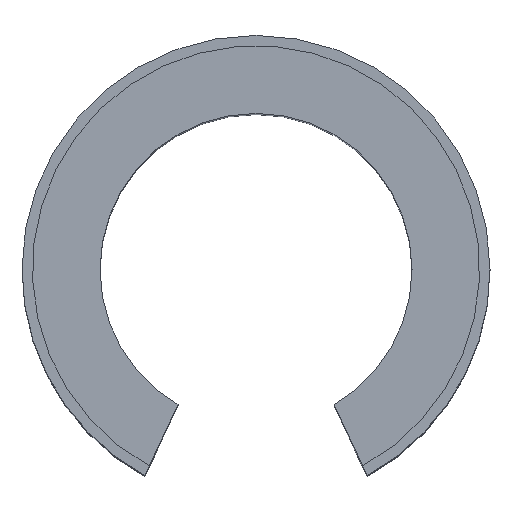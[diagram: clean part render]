
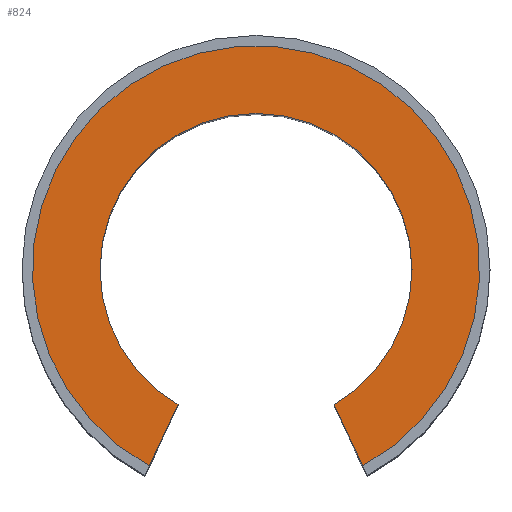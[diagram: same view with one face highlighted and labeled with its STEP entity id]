
A CAD part, top view. The second image highlights one B-rep face of the part: STEP entity #824.
In plain terms, the highlighted planar face has unit normal (0, 0, 1).
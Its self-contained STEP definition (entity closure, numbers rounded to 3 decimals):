
#51=CARTESIAN_POINT('',(15.0,0.,64.0));
#52=VERTEX_POINT('',#51);
#68=CARTESIAN_POINT('',(7.5,-12.99,64.0));
#69=VERTEX_POINT('',#68);
#76=CARTESIAN_POINT('',(0.0,0.0,64.0));
#77=DIRECTION('',(0.0,0.0,-1.0));
#78=DIRECTION('',(-1.0,0.0,0.0));
#79=AXIS2_PLACEMENT_3D('',#76,#77,#78);
#80=CIRCLE('',#79,15.0);
#81=EDGE_CURVE('',#52,#69,#80,.T.);
#91=CARTESIAN_POINT('',(-15.0,0.,64.0));
#92=VERTEX_POINT('',#91);
#101=CARTESIAN_POINT('',(-7.5,-12.99,64.0));
#102=VERTEX_POINT('',#101);
#103=CARTESIAN_POINT('',(0.0,0.0,64.0));
#104=DIRECTION('',(0.0,0.0,-1.0));
#105=DIRECTION('',(-1.0,0.0,0.0));
#106=AXIS2_PLACEMENT_3D('',#103,#104,#105);
#107=CIRCLE('',#106,15.0);
#108=EDGE_CURVE('',#102,#92,#107,.T.);
#469=CARTESIAN_POINT('',(-10.254,-18.897,64.0));
#470=VERTEX_POINT('',#469);
#539=CARTESIAN_POINT('',(-10.254,-18.897,64.0));
#540=DIRECTION('',(0.423,0.906,0.0));
#541=VECTOR('',#540,6.517);
#542=LINE('',#539,#541);
#543=EDGE_CURVE('',#470,#102,#542,.T.);
#553=CARTESIAN_POINT('',(10.254,-18.897,64.0));
#554=VERTEX_POINT('',#553);
#561=CARTESIAN_POINT('',(7.5,-12.99,64.0));
#562=DIRECTION('',(0.423,-0.906,0.0));
#563=VECTOR('',#562,6.517);
#564=LINE('',#561,#563);
#565=EDGE_CURVE('',#69,#554,#564,.T.);
#799=CARTESIAN_POINT('',(0.0,0.0,64.0));
#800=DIRECTION('',(0.0,0.0,-1.0));
#801=DIRECTION('',(-1.0,0.0,0.0));
#802=AXIS2_PLACEMENT_3D('',#799,#800,#801);
#803=PLANE('',#802);
#804=ORIENTED_EDGE('',*,*,#565,.T.);
#805=CARTESIAN_POINT('',(0.0,0.0,64.0));
#806=DIRECTION('',(0.0,0.0,-1.0));
#807=DIRECTION('',(1.0,0.0,0.0));
#808=AXIS2_PLACEMENT_3D('',#805,#806,#807);
#809=CIRCLE('',#808,21.5);
#810=EDGE_CURVE('',#470,#554,#809,.T.);
#811=ORIENTED_EDGE('',*,*,#810,.F.);
#812=ORIENTED_EDGE('',*,*,#543,.T.);
#813=ORIENTED_EDGE('',*,*,#108,.T.);
#814=CARTESIAN_POINT('',(0.0,0.0,64.0));
#815=DIRECTION('',(0.0,0.0,-1.0));
#816=DIRECTION('',(-1.0,0.0,0.0));
#817=AXIS2_PLACEMENT_3D('',#814,#815,#816);
#818=CIRCLE('',#817,15.0);
#819=EDGE_CURVE('',#92,#52,#818,.T.);
#820=ORIENTED_EDGE('',*,*,#819,.T.);
#821=ORIENTED_EDGE('',*,*,#81,.T.);
#822=EDGE_LOOP('',(#804,#811,#812,#813,#820,#821));
#823=FACE_OUTER_BOUND('',#822,.T.);
#824=ADVANCED_FACE('',(#823),#803,.F.);
